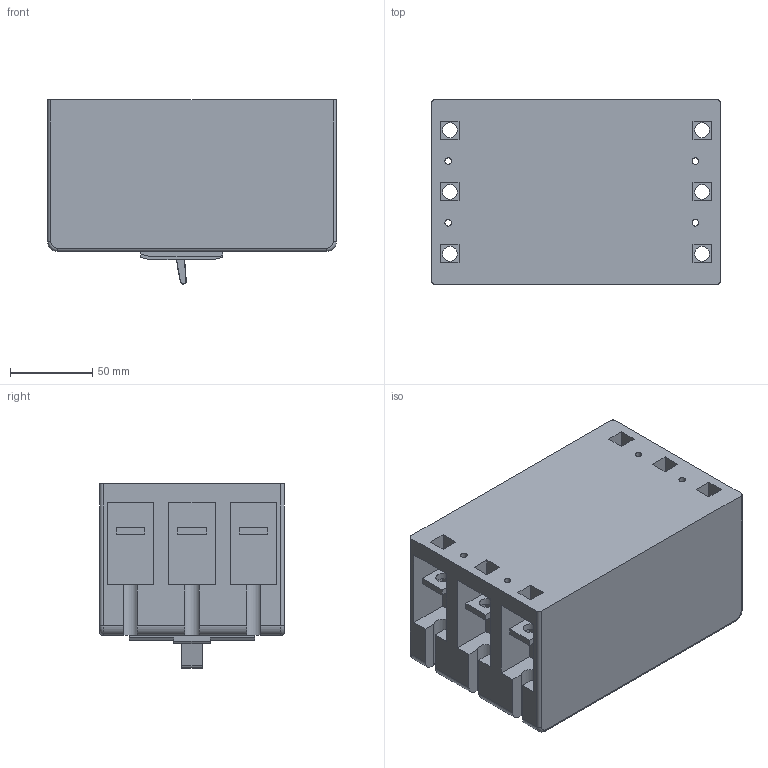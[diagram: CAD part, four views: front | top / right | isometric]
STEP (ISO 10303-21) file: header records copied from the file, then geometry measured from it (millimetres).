
FILE_DESCRIPTION(('STEP AP203'), '1');
FILE_NAME('ﾂﾀ57-35ﾌ', '', ('UNSPECIFIED'), ('UNSPECIFIED'), 'ASCON STEP Converter 1.3', 'ASCON Math Kernel', '');
FILE_SCHEMA(('CONFIG_CONTROL_DESIGN'));
Length unit declared in the file: millimetre
Bounding box: 175.3 x 112 x 111.8 mm (x, y, z)
Volume: 1570952.6 mm3; surface area: 132011.5 mm2
Topology: 1 solids, 1 shells, 187 faces, 499 edges, 326 vertices
Faces by surface type: plane 142, cylinder 39, torus 6
Full cylindrical faces by diameter (mm): 4.1 x4, 7.6 x4, 9 x6
Entity records: 7334 total; most frequent: CARTESIAN_POINT 1075, ORIENTED_EDGE 970, DIRECTION 929, EDGE_CURVE 485, LINE 401, VECTOR 401, VERTEX_POINT 326, AXIS2_PLACEMENT_3D 264
